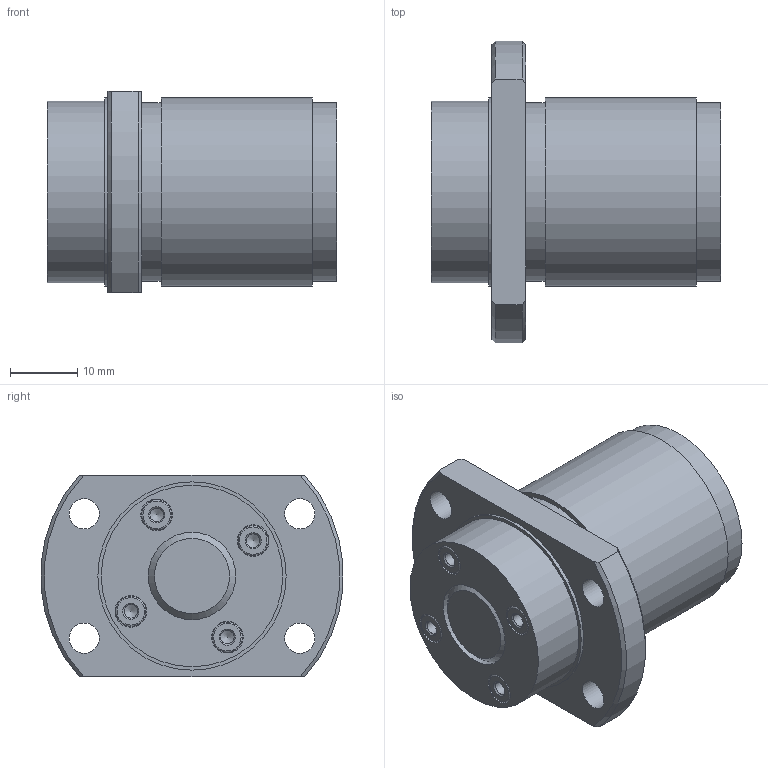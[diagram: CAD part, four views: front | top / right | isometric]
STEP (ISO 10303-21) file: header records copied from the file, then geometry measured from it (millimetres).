
FILE_DESCRIPTION(/* description */ ('STEP AP203'),/* implementation_level */ '2;1');
FILE_NAME(/* name */ 'WGF1320-3G1+43LC3_0_13_0_0',/* time_stamp */ '2025-01-16T06:24:34+01:00',/* author */ ('License CC BY-ND 4.0'),/* organization */ ('CADENAS'),/* preprocessor_version */ 'ST-DEVELOPER v19.3',/* originating_system */ 'PARTsolutions',/* authorisation */ ' ');
FILE_SCHEMA (('CONFIG_CONTROL_DESIGN'));
Length unit declared in the file: millimetre
Products named in the file (3): WGF1320-3G1+43LC3_0_13_0_0; 0130WGF1320-30Shaft; RR0130WGF1320-3Nut
Assembly tree (2 placements, depth 2):
  WGF1320-3G1+43LC3_0_13_0_0
    0130WGF1320-30Shaft
    RR0130WGF1320-3Nut
Bounding box: 43 x 44.85 x 30 mm (x, y, z)
Volume: 28443.3 mm3; surface area: 10462.1 mm2
Topology: 2 solids, 2 shells, 62 faces, 123 edges, 78 vertices
Faces by surface type: cylinder 25, plane 19, cone 14, torus 4
Full cylindrical faces by diameter (mm): 2 x4, 4.5 x8, 4.7 x4, 13 x2, 26.6 x2, 27 x1, 28 x2
Entity records: 1495 total; most frequent: DIRECTION 266, CARTESIAN_POINT 245, ORIENTED_EDGE 160, AXIS2_PLACEMENT_3D 129, FACE_BOUND 126, EDGE_LOOP 122, EDGE_CURVE 80, VERTEX_POINT 76
